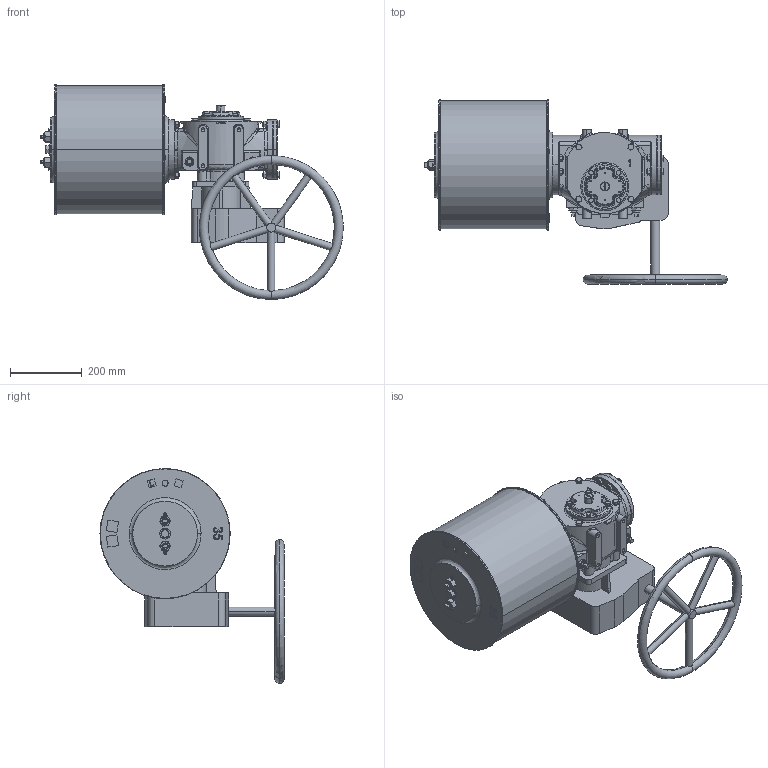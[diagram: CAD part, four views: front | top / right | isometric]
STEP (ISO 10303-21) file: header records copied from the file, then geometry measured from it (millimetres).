
FILE_DESCRIPTION (( 'STEP AP203' ), '1' );
FILE_NAME ('VTS1-350-MW.STEP', '2023-01-01T07:46:02', ( '' ), ( '' ), 'SwSTEP 2.0', 'SolidWorks 2020', '' );
FILE_SCHEMA (( 'CONFIG_CONTROL_DESIGN' ));
Length unit declared in the file: millimetre
Products named in the file (1): VTS1-350-MW
Bounding box: 840.5 x 511.5 x 597.5 mm (x, y, z)
Volume: 46073462.2 mm3; surface area: 1572281.7 mm2
Topology: 8 solids, 14 shells, 1856 faces, 4886 edges, 3094 vertices
Faces by surface type: plane 714, cylinder 514, cone 341, bspline 225, torus 34, sphere 28
Entity records: 83690 total; most frequent: CARTESIAN_POINT 41508, ORIENTED_EDGE 9612, DIRECTION 7569, EDGE_CURVE 4806, VERTEX_POINT 3094, AXIS2_PLACEMENT_3D 2862, EDGE_LOOP 2034, FACE_OUTER_BOUND 1856
